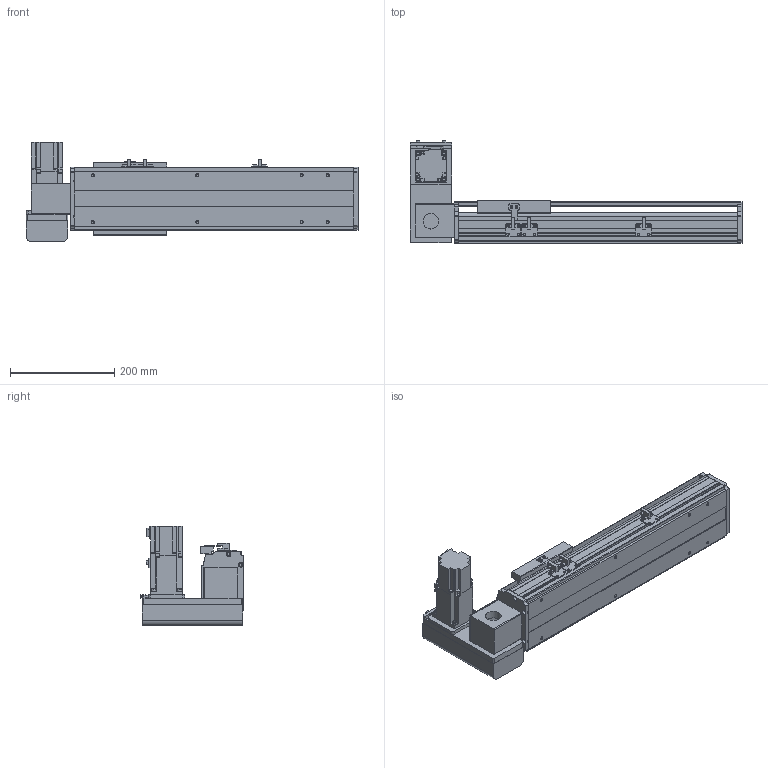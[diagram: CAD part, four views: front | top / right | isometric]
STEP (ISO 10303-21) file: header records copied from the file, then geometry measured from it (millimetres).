
FILE_DESCRIPTION(/* description */ ('STEP AP214'),/* implementation_level */ '2;1');
FILE_NAME(/* name */ 'PBS120-P40-S250-LU-T40-C1-N(0)',/* time_stamp */ '2022-06-06T02:30:09+02:00',/* author */ ('License CC BY-ND 4.0'),/* organization */ ('CADENAS'),/* preprocessor_version */ 'ST-DEVELOPER v18.102',/* originating_system */ 'PARTsolutions',/* authorisation */ ' ');
FILE_SCHEMA (('AUTOMOTIVE_DESIGN {1 0 10303 214 3 1 1}'));
Length unit declared in the file: millimetre
Products named in the file (7): PBS120-P40-S250-LU-T40-C1-N(0); PBS120_sensor; PBS120_plant; PBS120_sliser; T40-p1; PBS120T-LU_motors; PBS120-S250()_body
Assembly tree (8 placements, depth 2):
  PBS120-P40-S250-LU-T40-C1-N(0)
    PBS120_sensor  x3
    PBS120_plant
    PBS120_sliser
    T40-p1
    PBS120T-LU_motors
    PBS120-S250()_body
Bounding box: 636 x 198 x 189.7 mm (x, y, z)
Volume: 3519871.1 mm3; surface area: 625280.9 mm2
Topology: 8 solids, 8 shells, 804 faces, 2116 edges, 1363 vertices
Faces by surface type: plane 541, cylinder 221, cone 40, torus 2
Full cylindrical faces by diameter (mm): 2.459 x6, 3.242 x4, 4 x2, 4.134 x4, 4.5 x10, 4.917 x12, 5.5 x11, 6 x2, 6.6 x1, 7 x2, 8.5 x4, 9 x4, 12 x1, 14 x1, 30 x2, 40 x1, 50 x2
Entity records: 21114 total; most frequent: DIRECTION 3644, CARTESIAN_POINT 3605, ORIENTED_EDGE 3454, EDGE_CURVE 1727, LINE 1228, VECTOR 1228, AXIS2_PLACEMENT_3D 1208, VERTEX_POINT 1169
